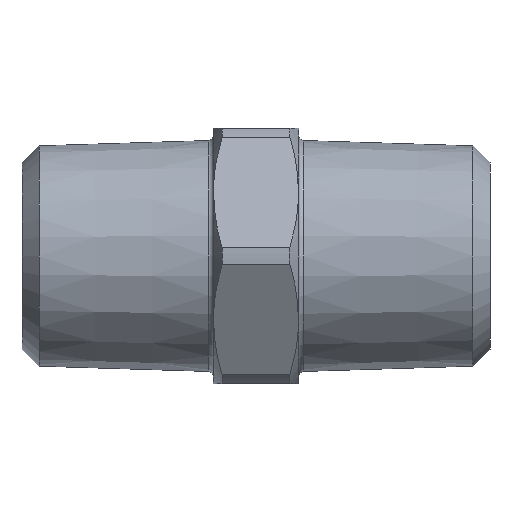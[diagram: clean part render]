
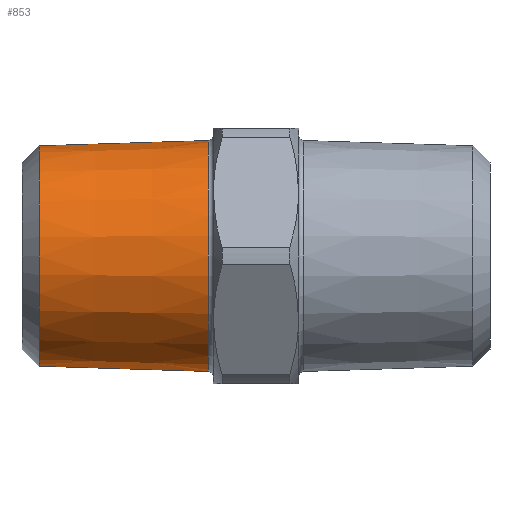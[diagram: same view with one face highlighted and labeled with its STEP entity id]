
A CAD part, front view. The second image highlights one B-rep face of the part: STEP entity #853.
In plain terms, the highlighted conical face has half-angle 1.79 degrees and reference radius 10.357 mm.
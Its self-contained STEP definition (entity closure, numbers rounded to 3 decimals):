
#69 = CARTESIAN_POINT ( 'NONE',  ( -42.4, 0., -10.357 ) ) ;
#74 = CARTESIAN_POINT ( 'NONE',  ( -42.4, 0., 10.357 ) ) ;
#84 = CARTESIAN_POINT ( 'NONE',  ( -26.484, 0., 10.855 ) ) ;
#95 = CARTESIAN_POINT ( 'NONE',  ( -26.484, 0., -10.855 ) ) ;
#151 = DIRECTION ( 'NONE',  ( 1., 0., 0. ) ) ;
#167 = DIRECTION ( 'NONE',  ( 0., 0., -1. ) ) ;
#170 = CARTESIAN_POINT ( 'NONE',  ( -42.4, 0., 0. ) ) ;
#342 = VECTOR ( 'NONE', #1580, 1000. ) ;
#347 = LINE ( 'NONE', #1595, #342 ) ;
#362 = CIRCLE ( 'NONE', #694, 10.357 ) ;
#403 = FACE_OUTER_BOUND ( 'NONE', #977, .T. ) ;
#409 = CONICAL_SURFACE ( 'NONE', #678, 10.357, 0.031 ) ;
#586 = DIRECTION ( 'NONE',  ( -1., 0., 0. ) ) ;
#587 = CARTESIAN_POINT ( 'NONE',  ( -26.484, 0., 0. ) ) ;
#596 = DIRECTION ( 'NONE',  ( 0., 0., -1. ) ) ;
#678 = AXIS2_PLACEMENT_3D ( 'NONE', #170, #151, #167 ) ;
#694 = AXIS2_PLACEMENT_3D ( 'NONE', #1504, #1503, #1502 ) ;
#730 = AXIS2_PLACEMENT_3D ( 'NONE', #587, #586, #596 ) ;
#749 = EDGE_CURVE ( 'NONE', #1214, #1221, #948, .T. ) ;
#770 = EDGE_CURVE ( 'NONE', #1231, #1221, #1281, .T. ) ;
#772 = EDGE_CURVE ( 'NONE', #1236, #1214, #347, .T. ) ;
#801 = EDGE_CURVE ( 'NONE', #1231, #1236, #362, .T. ) ;
#853 = ADVANCED_FACE ( 'NONE', ( #403 ), #409, .T. ) ;
#948 = CIRCLE ( 'NONE', #730, 10.855 ) ;
#977 = EDGE_LOOP ( 'NONE', ( #1094, #1093, #1098, #1091 ) ) ;
#1091 = ORIENTED_EDGE ( 'NONE', *, *, #749, .T. ) ;
#1093 = ORIENTED_EDGE ( 'NONE', *, *, #801, .T. ) ;
#1094 = ORIENTED_EDGE ( 'NONE', *, *, #770, .F. ) ;
#1098 = ORIENTED_EDGE ( 'NONE', *, *, #772, .T. ) ;
#1214 = VERTEX_POINT ( 'NONE', #95 ) ;
#1221 = VERTEX_POINT ( 'NONE', #84 ) ;
#1231 = VERTEX_POINT ( 'NONE', #74 ) ;
#1236 = VERTEX_POINT ( 'NONE', #69 ) ;
#1280 = VECTOR ( 'NONE', #1589, 1000. ) ;
#1281 = LINE ( 'NONE', #1555, #1280 ) ;
#1502 = DIRECTION ( 'NONE',  ( 0., 0., -1. ) ) ;
#1503 = DIRECTION ( 'NONE',  ( 1., 0., 0. ) ) ;
#1504 = CARTESIAN_POINT ( 'NONE',  ( -42.4, 0., 0. ) ) ;
#1555 = CARTESIAN_POINT ( 'NONE',  ( -42.4, 0., 10.357 ) ) ;
#1580 = DIRECTION ( 'NONE',  ( 1., 0., -0.031 ) ) ;
#1589 = DIRECTION ( 'NONE',  ( 1., 0., 0.031 ) ) ;
#1595 = CARTESIAN_POINT ( 'NONE',  ( -42.4, 0., -10.357 ) ) ;
